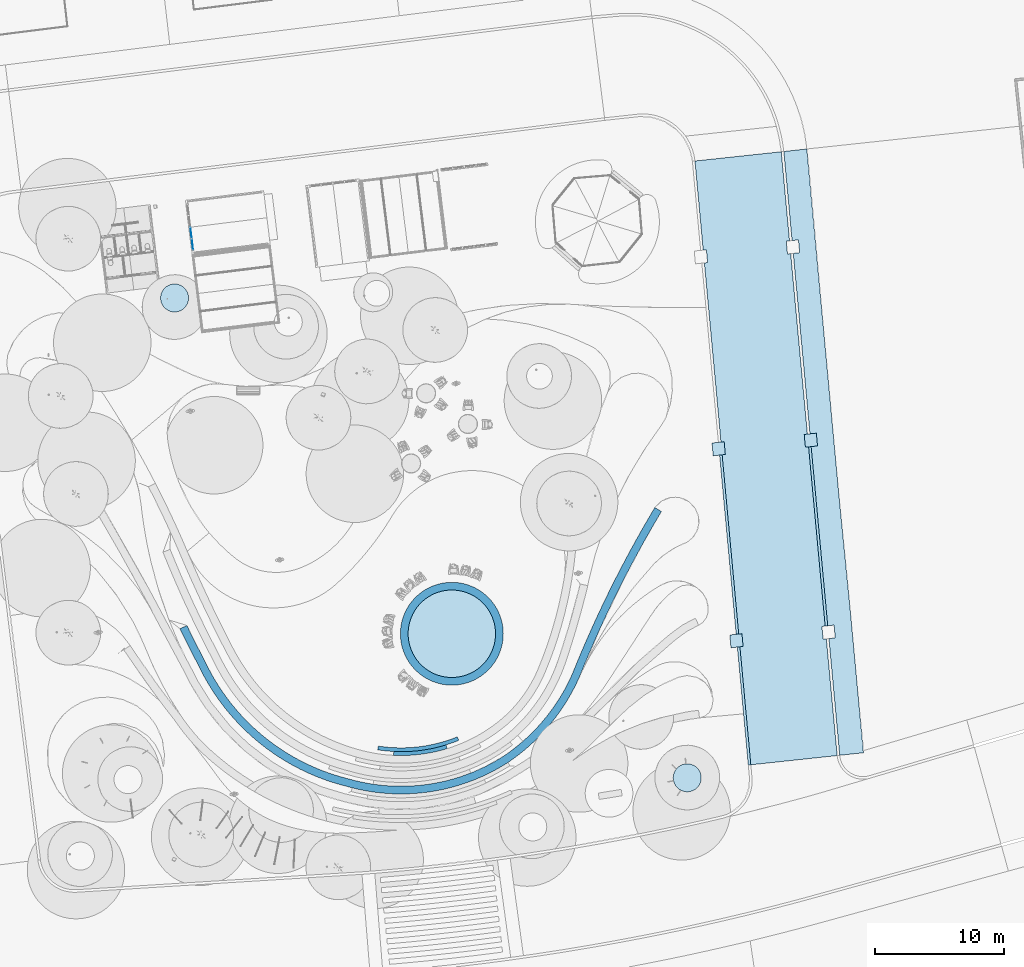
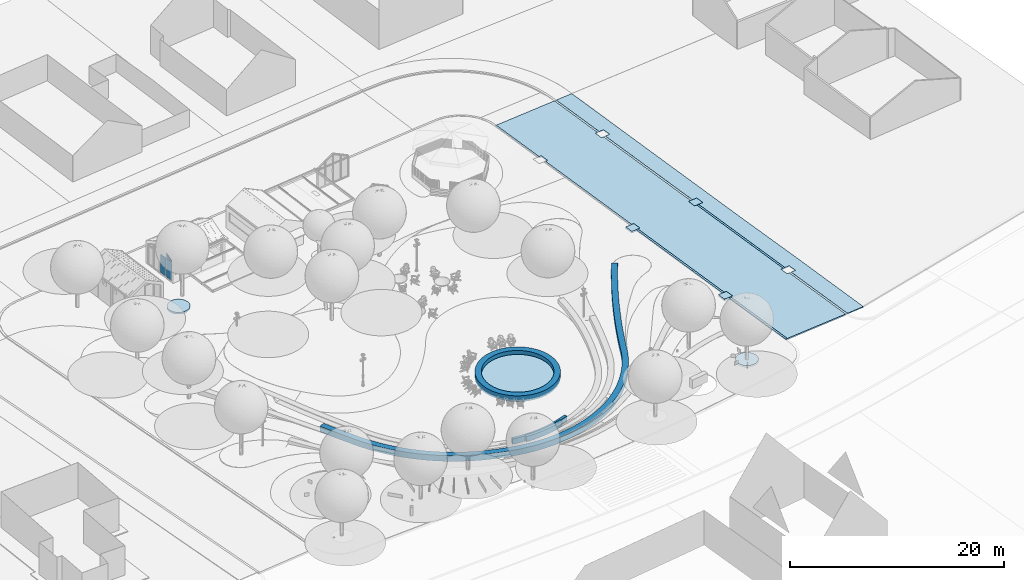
# One storey, part 12 of 75: 15 slabs, 3 plates, 1 opening, 1 element without a shape of its own.
"""IFC2X3 building model written with IfcOpenShell, lengths in metres."""

from ifc_helpers import new_model, entity, si_unit, converted_unit, derived_unit, direction, frame, frame_2d, origin, origin_2d_with_axis, place, context, subcontext, project, spatial, polyline, circle_curve, parameter, trimmed, segment, composite_curve, rectangle, circle, outline, extrude, clip, halfspace, source, transform, mapped, material, layer, layer_set, layer_usage, type_object, type_shapes, element, aggregate, save


model = new_model("IFC2X3")

# Units and contexts
model_context = context("Model", 3, precision=1e-05, world=origin(), true_north=direction((6.123031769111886e-17, 1.0)))
body_context = subcontext(model_context, "Body", "Model", "MODEL_VIEW")
ifc_project = project(units=[si_unit("LENGTHUNIT", "METRE"), si_unit("AREAUNIT", "SQUARE_METRE"), si_unit("VOLUMEUNIT", "CUBIC_METRE"), converted_unit("PLANEANGLEUNIT", "DEGREE", entity("IfcRatioMeasure", 0.017453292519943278), si_unit("PLANEANGLEUNIT", "RADIAN"), dimensions=[0, 0, 0, 0, 0, 0, 0]), si_unit("MASSUNIT", "GRAM", prefix="KILO"), derived_unit("MASSDENSITYUNIT", [(si_unit("MASSUNIT", "GRAM", prefix="KILO"), 1), (si_unit("LENGTHUNIT", "METRE"), -3)]), derived_unit("IONCONCENTRATIONUNIT", [(si_unit("MASSUNIT", "GRAM", prefix="KILO"), 1), (si_unit("LENGTHUNIT", "METRE"), -3)]), derived_unit("MOMENTOFINERTIAUNIT", [(si_unit("LENGTHUNIT", "METRE"), 4)]), si_unit("TIMEUNIT", "SECOND"), si_unit("FREQUENCYUNIT", "HERTZ"), si_unit("THERMODYNAMICTEMPERATUREUNIT", "DEGREE_CELSIUS"), derived_unit("THERMALTRANSMITTANCEUNIT", [(si_unit("MASSUNIT", "GRAM", prefix="KILO"), 1), (si_unit("THERMODYNAMICTEMPERATUREUNIT", "KELVIN"), -1), (si_unit("TIMEUNIT", "SECOND"), -3)]), derived_unit("THERMALCONDUCTANCEUNIT", [(si_unit("MASSUNIT", "GRAM", prefix="KILO"), 1), (si_unit("THERMODYNAMICTEMPERATUREUNIT", "KELVIN"), -1), (si_unit("TIMEUNIT", "SECOND"), -3), (si_unit("LENGTHUNIT", "METRE"), 1)]), derived_unit("VOLUMETRICFLOWRATEUNIT", [(si_unit("LENGTHUNIT", "METRE"), 3), (si_unit("TIMEUNIT", "SECOND"), -1)]), derived_unit("MASSFLOWRATEUNIT", [(si_unit("MASSUNIT", "GRAM", prefix="KILO"), 1), (si_unit("TIMEUNIT", "SECOND"), -1)]), derived_unit("ROTATIONALFREQUENCYUNIT", [(si_unit("TIMEUNIT", "SECOND"), -1)]), si_unit("ELECTRICCURRENTUNIT", "AMPERE"), si_unit("ELECTRICVOLTAGEUNIT", "VOLT"), si_unit("POWERUNIT", "WATT"), si_unit("FORCEUNIT", "NEWTON", prefix="KILO"), si_unit("ILLUMINANCEUNIT", "LUX"), si_unit("LUMINOUSFLUXUNIT", "LUMEN"), si_unit("LUMINOUSINTENSITYUNIT", "CANDELA"), derived_unit("USERDEFINED", [(si_unit("MASSUNIT", "GRAM", prefix="KILO"), -1), (si_unit("LENGTHUNIT", "METRE"), -2), (si_unit("TIMEUNIT", "SECOND"), 3), (si_unit("LUMINOUSFLUXUNIT", "LUMEN"), 1)]), derived_unit("USERDEFINED", [(si_unit("MASSUNIT", "GRAM", prefix="KILO"), 1), (si_unit("TIMEUNIT", "SECOND"), -3), (si_unit("LENGTHUNIT", "METRE"), 3), (si_unit("ELECTRICCURRENTUNIT", "AMPERE"), -2)]), derived_unit("SOUNDPOWERUNIT", [(si_unit("MASSUNIT", "GRAM", prefix="KILO"), 1), (si_unit("TIMEUNIT", "SECOND"), -3), (si_unit("LENGTHUNIT", "METRE"), 2)]), derived_unit("SOUNDPRESSUREUNIT", [(si_unit("MASSUNIT", "GRAM", prefix="KILO"), 1), (si_unit("LENGTHUNIT", "METRE"), -1), (si_unit("TIMEUNIT", "SECOND"), -2)]), derived_unit("LINEARVELOCITYUNIT", [(si_unit("LENGTHUNIT", "METRE"), 1), (si_unit("TIMEUNIT", "SECOND"), -1)]), si_unit("PRESSUREUNIT", "PASCAL"), derived_unit("USERDEFINED", [(si_unit("MASSUNIT", "GRAM", prefix="KILO"), 1), (si_unit("LENGTHUNIT", "METRE"), -2), (si_unit("TIMEUNIT", "SECOND"), -2)]), derived_unit("LINEARFORCEUNIT", [(si_unit("MASSUNIT", "GRAM", prefix="KILO"), 1), (si_unit("TIMEUNIT", "SECOND"), -2)]), derived_unit("PLANARFORCEUNIT", [(si_unit("MASSUNIT", "GRAM", prefix="KILO"), 1), (si_unit("LENGTHUNIT", "METRE"), -1), (si_unit("TIMEUNIT", "SECOND"), -2)]), derived_unit("SPECIFICHEATCAPACITYUNIT", [(si_unit("THERMODYNAMICTEMPERATUREUNIT", "KELVIN"), -1), (si_unit("LENGTHUNIT", "METRE"), 2), (si_unit("TIMEUNIT", "SECOND"), -2)]), derived_unit("HEATINGVALUEUNIT", [(si_unit("LENGTHUNIT", "METRE"), 2), (si_unit("TIMEUNIT", "SECOND"), -2)]), derived_unit("VAPORPERMEABILITYUNIT", [(si_unit("LENGTHUNIT", "METRE"), -1), (si_unit("TIMEUNIT", "SECOND"), 1)]), derived_unit("DYNAMICVISCOSITYUNIT", [(si_unit("MASSUNIT", "GRAM", prefix="KILO"), 1), (si_unit("TIMEUNIT", "SECOND"), -1), (si_unit("LENGTHUNIT", "METRE"), -1)]), derived_unit("THERMALEXPANSIONCOEFFICIENTUNIT", [(si_unit("THERMODYNAMICTEMPERATUREUNIT", "KELVIN"), -1)]), derived_unit("MODULUSOFELASTICITYUNIT", [(si_unit("MASSUNIT", "GRAM", prefix="KILO"), 1), (si_unit("LENGTHUNIT", "METRE"), -1), (si_unit("TIMEUNIT", "SECOND"), -2)]), derived_unit("ISOTHERMALMOISTURECAPACITYUNIT", [(si_unit("LENGTHUNIT", "METRE"), 3), (si_unit("MASSUNIT", "GRAM", prefix="KILO"), -1)]), derived_unit("MOISTUREDIFFUSIVITYUNIT", [(si_unit("TIMEUNIT", "SECOND"), -1), (si_unit("LENGTHUNIT", "METRE"), 2)])], contexts=[model_context])

# Site, building, storey
site_placement = place(None, origin())
site = spatial("IfcSite", under=ifc_project, at=site_placement, Name="Default", CompositionType="ELEMENT")
building_placement = place(site_placement, origin())
building = spatial("IfcBuilding", under=site, at=building_placement, Name="Projeto", CompositionType="ELEMENT")
storey_placement = place(building_placement, origin())
storey = spatial("IfcBuildingStorey", under=building, at=storey_placement, Name="Nível 1", CompositionType="ELEMENT", Elevation=0.0)

# Slabs
ifc_material_1 = material(Name="Piso CAJOI PASSEIO")
ifc_layer_1 = layer(ifc_material_1, 0.14999999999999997)
ifc_layer_set_1 = layer_set([ifc_layer_1], Name="Piso:Basalto Flameado 20x10cm")
ifc_layer_usage_1 = layer_usage(ifc_layer_set_1, "AXIS3", "POSITIVE", 0.0)
slab_type_1 = type_object("IfcSlabType", Name="Piso:Basalto Flameado 20x10cm", PredefinedType="FLOOR", material=ifc_layer_set_1)
slab_1_placement = place(storey_placement, origin())
element("IfcSlab", 1, at=slab_1_placement, inside=storey, type_object=slab_type_1, material=ifc_layer_usage_1, Name="Piso:Basalto Flameado 20x10cm", ObjectType="Piso:Basalto Flameado 20x10cm", PredefinedType="FLOOR", context=body_context, shape_type="SweptSolid", body=[
    clip(clip(extrude(outline(polyline([(-3.0492640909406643, -22.683663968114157), (3.7047551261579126, -22.683663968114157), (3.6040774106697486, -15.710838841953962), (3.3540512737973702, -15.710838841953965), (3.3395907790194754, -14.7093212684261), (3.589616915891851, -14.7093212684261), (3.3857467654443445, -0.5895043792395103), (3.135720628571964, -0.5895043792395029), (3.1212601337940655, 0.4120131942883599), (3.3712862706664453, 0.41201319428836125), (3.168895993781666, 14.429335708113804), (2.9157121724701, 14.429335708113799), (2.9012516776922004, 15.430853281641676), (3.1544354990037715, 15.430853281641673), (3.0225705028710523, 24.563674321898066), (-3.7314487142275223, 24.563674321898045), (-3.598138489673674, 15.330758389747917), (-3.348112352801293, 15.330758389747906), (-3.3336518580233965, 14.32924081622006), (-3.5836779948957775, 14.329240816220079), (-3.3812537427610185, 0.3095652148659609), (-3.1312276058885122, 0.3095652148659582), (-3.1167671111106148, -0.6919523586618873), (-3.366793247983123, -0.6919523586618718), (-3.164402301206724, -14.709321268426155), (-2.9143761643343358, -14.709321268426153), (-2.8999156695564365, -15.710838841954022), (-3.149941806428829, -15.710838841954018), (-3.0492640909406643, -22.683663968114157)])), frame((33.09532107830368, 14.047417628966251, -1.351728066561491), z_axis=(0.005864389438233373, -0.054716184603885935, -0.9984847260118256), x_axis=(0.9943054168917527, 0.10656799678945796, 0.0)), (0.0, -0.05502955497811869, 0.9984847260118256), 0.1504556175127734), halfspace(frame((30.908069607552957, 36.59200062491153, -2.75022763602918), z_axis=(0.005864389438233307, -0.05471618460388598, -0.9984847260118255), x_axis=(0.10640651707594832, -0.9927987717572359, 0.05502955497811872)), False)), halfspace(frame((30.908069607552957, 36.59200062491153, -2.6), z_axis=(-0.005864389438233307, 0.05471618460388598, 0.9984847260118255), x_axis=(-0.10640651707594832, 0.9927987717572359, -0.05502955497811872)), False)),
])
ifc_material_2 = material(Name="Piso CAJOI PASSEIO(1)")
ifc_layer_2 = layer(ifc_material_2, 0.1)
ifc_layer_set_2 = layer_set([ifc_layer_2], Name="Piso:Basalto 40x80")
ifc_layer_usage_2 = layer_usage(ifc_layer_set_2, "AXIS3", "POSITIVE", 0.0)
slab_type_2 = type_object("IfcSlabType", Name="Piso:Basalto 40x80", PredefinedType="FLOOR", material=ifc_layer_set_2)
slab_2_placement = place(storey_placement, origin())
element("IfcSlab", 2, at=slab_2_placement, inside=storey, type_object=slab_type_2, material=ifc_layer_usage_2, Name="Piso:Basalto 40x80", ObjectType="Piso:Basalto 40x80", PredefinedType="FLOOR", context=body_context, shape_type="SweptSolid", body=[
    clip(clip(extrude(outline(polyline([(-22.507062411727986, -1.1655991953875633), (4.613093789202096, -0.7774938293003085), (13.926422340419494, -0.6969492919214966), (24.740275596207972, -0.538889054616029), (24.74035114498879, 1.316565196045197), (15.607529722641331, 1.1847001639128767), (15.607509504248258, 0.6881428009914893), (14.605991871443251, 0.673255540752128), (14.606012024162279, 1.1681999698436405), (0.5886889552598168, 0.9665800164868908), (0.588668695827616, 0.46901474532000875), (-0.4128489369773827, 0.45412748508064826), (-0.4128286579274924, 0.95217456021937), (-14.532646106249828, 0.7490803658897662), (-14.532666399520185, 0.2506840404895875), (-15.534184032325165, 0.23579678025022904), (-15.534163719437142, 0.7346749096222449), (-22.506989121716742, 0.6343803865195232), (-22.507062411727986, -1.1655991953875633)])), frame((37.58983342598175, 14.706511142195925, -1.3615491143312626), z_axis=(0.005128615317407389, -0.054785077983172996, -0.9984849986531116), x_axis=(0.10640657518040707, -0.9927993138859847, 0.055019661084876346)), (-0.055019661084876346, -0.0007378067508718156, 0.9984849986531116), 0.10030369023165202), halfspace(frame((39.75704689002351, -9.905511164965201, -0.1001517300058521), z_axis=(0.0051286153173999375, -0.05478507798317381, -0.9984849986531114), x_axis=(-0.09306464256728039, 0.9941384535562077, -0.055024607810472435)), False)), halfspace(frame((39.75704689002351, -9.905511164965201, 0.0), z_axis=(-0.0051286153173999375, 0.05478507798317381, 0.9984849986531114), x_axis=(0.09306464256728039, -0.9941384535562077, 0.055024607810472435)), False)),
])
ifc_material_3 = material(Name="Concreto moldado In loco")
ifc_layer_3 = layer(ifc_material_3, 0.12)
ifc_layer_set_3 = layer_set([ifc_layer_3], Name="Piso:meio fio de concreto")
ifc_layer_usage_3 = layer_usage(ifc_layer_set_3, "AXIS3", "POSITIVE", 0.0)
slab_type_3 = type_object("IfcSlabType", Name="Piso:meio fio de concreto", PredefinedType="FLOOR", material=ifc_layer_set_3)
slab_3_placement = place(storey_placement, frame((27.450849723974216, -10.7583369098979, -2.720221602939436)))
element("IfcSlab", 3, at=slab_3_placement, inside=storey, type_object=slab_type_3, material=ifc_layer_usage_3, Name="Piso:meio fio de concreto:2", ObjectType="Piso:meio fio de concreto", PredefinedType="FLOOR", context=body_context, shape_type="SweptSolid", body=[
    extrude(outline(polyline([(1.0430908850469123, -47.404766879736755), (0.9287677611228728, -46.167965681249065), (0.19318492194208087, -38.21008536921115), (-0.00570037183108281, -38.23136926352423), (0.7220544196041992, -46.1045620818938), (0.8442055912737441, -47.42605077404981), (1.0430908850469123, -47.404766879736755)])), frame((3.5049337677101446, 47.35473072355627, 0.12022160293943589), z_axis=(-0.005864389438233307, 0.05471618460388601, 0.9984847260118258), x_axis=(0.9999828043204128, 0.00032088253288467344, 0.0058556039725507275)), (-0.0058556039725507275, 0.05471712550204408, -0.9984847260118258), 0.12018210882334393),
])
slab_4_placement = place(storey_placement, frame((27.450849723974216, -10.7583369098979, -2.720221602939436)))
element("IfcSlab", 4, at=slab_4_placement, inside=storey, type_object=slab_type_3, material=ifc_layer_usage_3, Name="Piso:meio fio de concreto:5", ObjectType="Piso:meio fio de concreto", PredefinedType="FLOOR", context=body_context, shape_type="SweptSolid", body=[
    extrude(outline(polyline([(5.734447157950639, -22.613152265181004), (5.5355618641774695, -22.63443615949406), (6.124738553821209, -29.008426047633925), (6.825880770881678, -36.59371154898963), (7.0247660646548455, -36.57242765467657), (6.312985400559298, -28.872050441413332), (5.734447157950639, -22.613152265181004)])), frame((3.5049337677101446, 47.35473072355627, 0.12022160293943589), z_axis=(-0.005864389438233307, 0.05471618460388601, 0.9984847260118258), x_axis=(0.9999828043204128, 0.00032088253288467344, 0.0058556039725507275)), (-0.0058556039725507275, 0.05471712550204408, -0.9984847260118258), 0.12018210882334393),
])
slab_5_placement = place(storey_placement, frame((27.450849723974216, -10.7583369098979, -2.720221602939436)))
element("IfcSlab", 5, at=slab_5_placement, inside=storey, type_object=slab_type_3, material=ifc_layer_usage_3, Name="Piso:meio fio de concreto:6", ObjectType="Piso:meio fio de concreto", PredefinedType="FLOOR", context=body_context, shape_type="SweptSolid", body=[
    extrude(outline(polyline([(0.10099348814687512, -37.21271517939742), (-0.5264362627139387, -30.424885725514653), (-1.1895420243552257, -23.25109644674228), (-1.3884273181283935, -23.272380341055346), (-0.7156809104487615, -30.55046665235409), (-0.09789180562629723, -37.23399907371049), (0.10099348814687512, -37.21271517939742)])), frame((3.5049337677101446, 47.35473072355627, 0.12022160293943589), z_axis=(-0.005864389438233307, 0.05471618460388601, 0.9984847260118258), x_axis=(0.9999828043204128, 0.00032088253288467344, 0.0058556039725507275)), (-0.0058556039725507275, 0.05471712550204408, -0.9984847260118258), 0.12018210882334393),
])
ifc_material_4 = material(Name="floração tipo 2")
ifc_layer_4 = layer(ifc_material_4, 0.04)
ifc_layer_5 = layer(ifc_material_4, 0.16)
ifc_layer_set_4 = layer_set([ifc_layer_4, ifc_layer_5], Name="Piso:Floração tipo 2")
ifc_layer_usage_4 = layer_usage(ifc_layer_set_4, "AXIS3", "POSITIVE", 0.0)
slab_type_4 = type_object("IfcSlabType", Name="Piso:Floração tipo 2", PredefinedType="FLOOR", material=ifc_layer_set_4)
slab_6_placement = place(storey_placement, frame((-21.255087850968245, -18.92636642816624, -0.2)))
element("IfcSlab", 6, at=slab_6_placement, inside=storey, type_object=slab_type_4, material=ifc_layer_usage_4, Name="Piso:Floração tipo 2:5", ObjectType="Piso:Floração tipo 2", PredefinedType="FLOOR", context=body_context, shape_type="SweptSolid", body=[
    extrude(circle(Radius=1.088876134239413, at=frame_2d((-23.60730223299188, 3.0442724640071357), x_axis=(1.0, 0.0))), frame((24.696178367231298, 4.13314859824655, 0.2), z_axis=(0.0, 0.0, -1.0), x_axis=(-1.0, 0.0, 0.0)), (0.0, 0.0, 1.0), 0.2),
])
slab_7_placement = place(storey_placement, frame((-13.925292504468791, 18.495659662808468, -2.8)))
element("IfcSlab", 7, at=slab_7_placement, inside=storey, type_object=slab_type_4, material=ifc_layer_usage_4, Name="Piso:Floração tipo 2", ObjectType="Piso:Floração tipo 2", PredefinedType="FLOOR", context=body_context, shape_type="SweptSolid", body=[
    extrude(circle(Radius=1.088876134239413, at=frame_2d((14.150073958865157, 2.8637800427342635), x_axis=(1.0, 0.0))), frame((15.23895009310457, 4.224767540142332, 0.2), z_axis=(0.0, 0.0, -1.0), x_axis=(-1.0, 0.0, 0.0)), (0.0, 0.0, 1.0), 0.2),
])
ifc_material_5 = material(Name="cacao")
ifc_layer_6 = layer(ifc_material_5, 0.65)
ifc_layer_set_5 = layer_set([ifc_layer_6], Name="Piso:Banco de concreto")
ifc_layer_usage_5 = layer_usage(ifc_layer_set_5, "AXIS3", "POSITIVE", 0.0)
slab_type_5 = type_object("IfcSlabType", Name="Piso:Banco de concreto", PredefinedType="FLOOR", material=ifc_layer_set_5)
slab_8_placement = place(storey_placement, frame((-12.415321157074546, -13.003224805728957, -1.5499999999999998)))
element("IfcSlab", 8, at=slab_8_placement, inside=storey, type_object=slab_type_5, material=ifc_layer_usage_5, Name="Piso:Banco de concreto", ObjectType="Piso:Banco de concreto", PredefinedType="FLOOR", context=body_context, shape_type="SweptSolid", body=[
    extrude(outline(composite_curve([segment(trimmed(circle_curve(frame_2d((-1.53197065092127, 4.226462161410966), x_axis=(1.0, 0.0)), 15.368392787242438), [parameter(254.0782042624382)], [parameter(302.7717027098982)], True, "PARAMETER"), True, "CONTINUOUS"), segment(trimmed(circle_curve(frame_2d((-1.944318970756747, 4.250092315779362), x_axis=(1.0, 0.0)), 15.61503397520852), [parameter(303.9970596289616)], [parameter(336.3325420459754)], True, "PARAMETER"), True, "CONTINUOUS"), segment(trimmed(circle_curve(frame_2d((96.40497063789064, -35.68756095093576), x_axis=(1.0, 0.0)), 90.54075394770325), [parameter(149.0817155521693)], [parameter(158.1690381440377)], True, "PARAMETER"), False, "CONTINUOUS"), segment(polyline([(18.72996920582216, 10.833641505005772), (18.215228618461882, 11.141930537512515)]), True, "CONTINUOUS"), segment(trimmed(circle_curve(frame_2d((96.40497063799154, -35.68756095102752), x_axis=(1.0, 0.0)), 91.14075394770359), [parameter(149.0817155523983)], [parameter(158.16292338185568)], True, "PARAMETER"), True, "CONTINUOUS"), segment(trimmed(circle_curve(frame_2d((-1.9443189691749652, 4.250092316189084), x_axis=(1.0, 0.0)), 15.015033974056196), [parameter(304.02154714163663)], [parameter(336.29626571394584)], True, "PARAMETER"), False, "CONTINUOUS"), segment(trimmed(circle_curve(frame_2d((-1.531970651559, 4.226462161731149), x_axis=(1.0, 0.0)), 14.768392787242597), [parameter(254.03490609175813)], [parameter(302.7468142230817)], True, "PARAMETER"), False, "CONTINUOUS"), segment(trimmed(circle_curve(frame_2d((-1.6097256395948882, 6.310428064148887), x_axis=(1.0, 0.0)), 16.763119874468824), [parameter(205.36402598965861)], [parameter(256.25014379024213)], True, "PARAMETER"), False, "CONTINUOUS"), segment(trimmed(circle_curve(frame_2d((61.44572891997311, 40.41002102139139), x_axis=(1.0, 0.0)), 88.42923233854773), [parameter(205.76891719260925)], [parameter(207.82795639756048)], True, "PARAMETER"), False, "CONTINUOUS"), segment(polyline([(-18.189636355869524, 1.9660653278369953), (-18.729969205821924, 1.7052197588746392)]), True, "CONTINUOUS"), segment(trimmed(circle_curve(frame_2d((61.445728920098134, 40.410021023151), x_axis=(1.0, 0.0)), 89.02923233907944), [parameter(205.76891719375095)], [parameter(207.81971146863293)], True, "PARAMETER"), True, "CONTINUOUS"), segment(trimmed(circle_curve(frame_2d((-1.6097256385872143, 6.3104280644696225), x_axis=(1.0, 0.0)), 17.363119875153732), [parameter(205.4069064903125)], [parameter(256.21190896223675)], True, "PARAMETER"), True, "CONTINUOUS")], self_intersect=False)), frame((18.729969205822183, 11.14170659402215, 0.65)), (0.0, 0.0, -1.0), 0.65),
])

# Slab, opening
slab_9_placement = place(storey_placement, frame((4.735884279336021, -4.539353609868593, -2.4499999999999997)))
slab_9 = element("IfcSlab", 9, at=slab_9_placement, inside=storey, type_object=slab_type_5, material=ifc_layer_usage_5, Name="Piso:Banco de concreto", ObjectType="Piso:Banco de concreto", PredefinedType="FLOOR", context=body_context, shape_type="SweptSolid", body=[
    extrude(circle(Radius=4.0, at=origin_2d_with_axis()), frame((4.0, 4.0, 0.6499999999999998)), (0.0, 0.0, -1.0), 0.6499999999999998),
])
opening_placement = place(slab_9_placement, origin())
element("IfcOpeningElement", 10, at=opening_placement, cuts=slab_9, Name="Piso:Banco de concreto", ObjectType="Opening", context=body_context, shape_type="SweptSolid", body=[
    extrude(circle(Radius=3.4000000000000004, at=frame_2d((0.0, -5.820410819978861e-15), x_axis=(1.0, 0.0))), frame((4.0, 4.0, 0.6499999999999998), z_axis=(0.0, 0.0, -1.0), x_axis=(1.0, 0.0, 0.0)), (0.0, 0.0, 1.0), 0.65),
])

# Slabs
slab_10_placement = place(storey_placement, origin())
element("IfcSlab", 11, at=slab_10_placement, inside=storey, type_object=slab_type_5, material=ifc_layer_usage_5, Name="Piso:Banco de concreto", ObjectType="Piso:Banco de concreto", PredefinedType="FLOOR", context=body_context, shape_type="SweptSolid", body=[
    extrude(circle(Radius=3.4000000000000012, at=frame_2d((-1.0828671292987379e-15, -2.74777534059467e-14), x_axis=(1.0, 0.0))), frame((8.735884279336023, -0.5393536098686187, -2.25), z_axis=(0.0, 0.0, -1.0), x_axis=(1.0, 0.0, 0.0)), (0.0, 0.0, 1.0), 0.6500000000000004),
])
ifc_material_6 = material(Name=".Concreto_Laje")
ifc_layer_7 = layer(ifc_material_6, 0.5999999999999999)
ifc_layer_set_6 = layer_set([ifc_layer_7], Name="Piso:Degrau de concreto")
ifc_layer_usage_6 = layer_usage(ifc_layer_set_6, "AXIS3", "POSITIVE", 0.0)
slab_type_6 = type_object("IfcSlabType", Name="Piso:Degrau de concreto", PredefinedType="FLOOR", material=ifc_layer_set_6)
slab_11_placement = place(storey_placement, frame((2.9676233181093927, -9.713593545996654, -2.6499999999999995)))
element("IfcSlab", 12, at=slab_11_placement, inside=storey, type_object=slab_type_6, material=ifc_layer_usage_6, Name="Piso:Degrau de concreto", ObjectType="Piso:Degrau de concreto", PredefinedType="FLOOR", context=body_context, shape_type="SweptSolid", body=[
    extrude(outline(composite_curve([segment(trimmed(circle_curve(frame_2d((1.3324902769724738, 11.314287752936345), x_axis=(-1.0, 0.0)), 11.892679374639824), [parameter(67.8337120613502)], [parameter(98.81300573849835)], True, "PARAMETER"), True, "CONTINUOUS"), segment(polyline([(3.154569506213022, -0.43798224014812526), (3.1086064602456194, -0.1415241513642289)]), True, "CONTINUOUS"), segment(trimmed(circle_curve(frame_2d((1.332490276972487, 11.31428775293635), x_axis=(-1.0, 0.0)), 11.592679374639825), [parameter(67.83371206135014)], [parameter(98.81300573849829)], True, "PARAMETER"), False, "CONTINUOUS"), segment(polyline([(-3.041380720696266, 0.5783915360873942), (-3.1545695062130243, 0.30056371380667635)]), True, "CONTINUOUS")], self_intersect=False)), frame((3.1545695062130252, 0.5782301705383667, 0.6000000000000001), z_axis=(0.0, 0.0, -1.0), x_axis=(-1.0, 0.0, 0.0)), (0.0, 0.0, 1.0), 0.6000000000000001),
])
slab_12_placement = place(storey_placement, frame((4.205236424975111, -10.012386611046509, -2.55)))
element("IfcSlab", 13, at=slab_12_placement, inside=storey, type_object=slab_type_6, material=ifc_layer_usage_6, Name="Piso:Degrau de concreto", ObjectType="Piso:Degrau de concreto", PredefinedType="FLOOR", context=body_context, shape_type="SweptSolid", body=[
    extrude(outline(composite_curve([segment(trimmed(circle_curve(frame_2d((1.4988470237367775, 11.780256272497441), x_axis=(-1.0, 0.0)), 12.19267937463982), [parameter(72.9146469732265)], [parameter(92.74757328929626)], True, "PARAMETER"), True, "CONTINUOUS"), segment(polyline([(2.0833131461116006, -0.3984066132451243), (2.068932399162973, -0.09875148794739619)]), True, "CONTINUOUS"), segment(trimmed(circle_curve(frame_2d((1.498847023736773, 11.780256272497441), x_axis=(-1.0, 0.0)), 11.892679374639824), [parameter(72.91464697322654)], [parameter(92.74757328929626)], True, "PARAMETER"), False, "CONTINUOUS"), segment(polyline([(-1.9951743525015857, 0.41242282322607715), (-2.083313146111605, 0.12566237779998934)]), True, "CONTINUOUS")], self_intersect=False)), frame((2.083313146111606, 0.41105471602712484, 0.5999999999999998), z_axis=(0.0, 0.0, -1.0), x_axis=(-1.0, 0.0, 0.0)), (0.0, 0.0, 1.0), 0.5999999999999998),
])
ifc_material_7 = material(Name="floração tipo 2(1)")
ifc_layer_8 = layer(ifc_material_7, 0.04)
ifc_layer_9 = layer(ifc_material_4, 0.16)
ifc_layer_set_7 = layer_set([ifc_layer_8, ifc_layer_9], Name="Piso:Glicinia")
ifc_layer_usage_7 = layer_usage(ifc_layer_set_7, "AXIS3", "POSITIVE", 0.0)
slab_type_7 = type_object("IfcSlabType", Name="Piso:Glicinia", PredefinedType="FLOOR", material=ifc_layer_set_7)
slab_13_placement = place(storey_placement, frame((27.59549467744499, -1.6309922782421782, -2.4166315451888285)))
element("IfcSlab", 14, at=slab_13_placement, inside=storey, type_object=slab_type_7, material=ifc_layer_usage_7, Name="Piso:Glicinia", ObjectType="Piso:Glicinia", PredefinedType="FLOOR", context=body_context, shape_type="SweptSolid", body=[
    extrude(outline(polyline([(5.194763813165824, -21.66367083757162), (5.286955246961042, -22.66104102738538), (6.230449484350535, -22.560072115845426), (6.138682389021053, -21.56265651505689), (5.194763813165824, -21.66367083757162)])), frame((3.36028881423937, 38.22738609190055, -0.1833684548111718), z_axis=(-0.005864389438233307, 0.05471618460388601, 0.9984847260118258), x_axis=(0.9999828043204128, 0.00032088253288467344, 0.0058556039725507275)), (-0.0058556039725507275, 0.05471712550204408, -0.9984847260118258), 0.20030351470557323),
])
slab_14_placement = place(storey_placement, frame((27.59549467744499, -1.6309922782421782, -2.4166315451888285)))
element("IfcSlab", 15, at=slab_14_placement, inside=storey, type_object=slab_type_7, material=ifc_layer_usage_7, Name="Piso:Glicinia:2", ObjectType="Piso:Glicinia", PredefinedType="FLOOR", context=body_context, shape_type="SweptSolid", body=[
    extrude(outline(polyline([(0.4417915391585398, -38.18348050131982), (0.34960010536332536, -37.18611031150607), (-0.5951050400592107, -37.28720880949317), (-0.5029136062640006, -38.28457899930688), (0.4417915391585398, -38.18348050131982)])), frame((3.36028881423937, 38.22738609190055, -0.1833684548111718), z_axis=(-0.005864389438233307, 0.05471618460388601, 0.9984847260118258), x_axis=(0.9999828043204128, 0.00032088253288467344, 0.0058556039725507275)), (-0.0058556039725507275, 0.05471712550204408, -0.9984847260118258), 0.20030351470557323),
])
slab_15_placement = place(storey_placement, frame((27.59549467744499, -1.6309922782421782, -2.4166315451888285)))
element("IfcSlab", 16, at=slab_15_placement, inside=storey, type_object=slab_type_7, material=ifc_layer_usage_7, Name="Piso:Glicinia:4", ObjectType="Piso:Glicinia", PredefinedType="FLOOR", context=body_context, shape_type="SweptSolid", body=[
    extrude(outline(polyline([(-0.9409354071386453, -23.224491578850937), (-1.0331268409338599, -22.227121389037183), (-1.9778319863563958, -22.328219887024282), (-1.8856405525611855, -23.325590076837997), (-0.9409354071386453, -23.224491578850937)])), frame((3.36028881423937, 38.22738609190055, -0.1833684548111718), z_axis=(-0.005864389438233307, 0.05471618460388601, 0.9984847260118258), x_axis=(0.9999828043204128, 0.00032088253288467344, 0.0058556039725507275)), (-0.0058556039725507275, 0.05471712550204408, -0.9984847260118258), 0.20030351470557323),
])

# Curtain wall, plates
curtain_wall_type = type_object("IfcCurtainWallType", Name="Parede cortina:Vitrine", PredefinedType="NOTDEFINED")
curtain_wall_placement = place(storey_placement, origin())
curtain_wall = element("IfcCurtainWall", 17, at=curtain_wall_placement, inside=storey, type_object=curtain_wall_type, Name="Parede cortina:Vitrine", ObjectType="Parede cortina:Vitrine")
ifc_material_8 = material(Name="Vidro")
plate_type_1 = type_object("IfcPlateType", Name="Painel do sistema:Envidraçado", PredefinedType="CURTAIN_PANEL", material=ifc_material_8)
shared_shape_1 = source(origin(), body_context, "Body", "SweptSolid", [
    extrude(rectangle(XDim=0.010000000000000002, YDim=0.8337612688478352, at=frame_2d((-4.336808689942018e-18, -1.3877787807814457e-16), x_axis=(1.0, 0.0))), frame((0.0, 0.037, 0.0), z_axis=(0.0, 0.0, 1.0), x_axis=(0.0, 1.0, 0.0)), (0.0, 0.0, 1.0), 2.1079684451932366),
])
type_shapes(plate_type_1, [shared_shape_1])
plate_1_placement = place(curtain_wall_placement, frame((-11.477870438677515, 29.752054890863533, -2.5299999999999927), z_axis=(0.0, 0.0, 1.0), x_axis=(0.12215242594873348, -0.9925113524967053, 0.0)))
plate_1 = element("IfcPlate", 18, at=plate_1_placement, type_object=plate_type_1, material=ifc_material_8, Name="Painel do sistema:Envidraçado", ObjectType="Painel do sistema:Envidraçado", context=body_context, shape_type="MappedRepresentation", body=[
    mapped(shared_shape_1, transform((0.0, 0.0, 0.0), scale=1.0)),
])
plate_type_2 = type_object("IfcPlateType", Name="Painel do sistema:Envidraçado", PredefinedType="CURTAIN_PANEL", material=ifc_material_8)
shared_shape_2 = source(origin(), body_context, "Body", "SweptSolid", [
    extrude(rectangle(XDim=0.010000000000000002, YDim=0.858761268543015, at=frame_2d((-4.336808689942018e-18, 5.551115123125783e-17), x_axis=(1.0, 0.0))), frame((0.0, 0.03699999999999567, 0.0), z_axis=(0.0, 0.0, 1.0), x_axis=(0.0, 1.0, 0.0)), (0.0, 0.0, 1.0), 2.1079684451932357),
])
type_shapes(plate_type_2, [shared_shape_2])
plate_2_placement = place(curtain_wall_placement, frame((-11.587350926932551, 30.641604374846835, -2.5299999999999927), z_axis=(0.0, 0.0, 1.0), x_axis=(0.12215242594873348, -0.9925113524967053, 0.0)))
plate_2 = element("IfcPlate", 19, at=plate_2_placement, type_object=plate_type_2, material=ifc_material_8, Name="Painel do sistema:Envidraçado", ObjectType="Painel do sistema:Envidraçado", context=body_context, shape_type="MappedRepresentation", body=[
    mapped(shared_shape_2, transform((0.0, 0.0, 0.0), scale=1.0)),
])
plate_type_3 = type_object("IfcPlateType", Name="Painel do sistema:Envidraçado", PredefinedType="CURTAIN_PANEL", material=ifc_material_8)
shared_shape_3 = source(origin(), body_context, "Body", "SweptSolid", [
    extrude(outline(polyline([(-0.16437274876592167, -0.41688063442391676), (0.3860321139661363, -0.41688063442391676), (-0.057286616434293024, 0.4168806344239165), (-0.16437274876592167, 0.4168806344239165), (-0.16437274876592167, -0.41688063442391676)])), frame((0.0, 0.031999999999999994, 0.16437274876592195), z_axis=(0.0, 1.0, 0.0), x_axis=(0.0, 0.0, 1.0)), (0.0, 0.0, 1.0), 0.010000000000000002),
])
type_shapes(plate_type_3, [shared_shape_3])
plate_3_placement = place(curtain_wall_placement, frame((-11.477870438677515, 29.752054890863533, -0.37203155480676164), z_axis=(0.0, 0.0, 1.0), x_axis=(0.12215242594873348, -0.9925113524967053, 0.0)))
plate_3 = element("IfcPlate", 20, at=plate_3_placement, type_object=plate_type_3, material=ifc_material_8, Name="Painel do sistema:Envidraçado", ObjectType="Painel do sistema:Envidraçado", context=body_context, shape_type="MappedRepresentation", body=[
    mapped(shared_shape_3, transform((0.0, 0.0, 0.0), scale=1.0)),
])
aggregate(curtain_wall, [plate_2, plate_1, plate_3])

save(model, "model.ifc")
